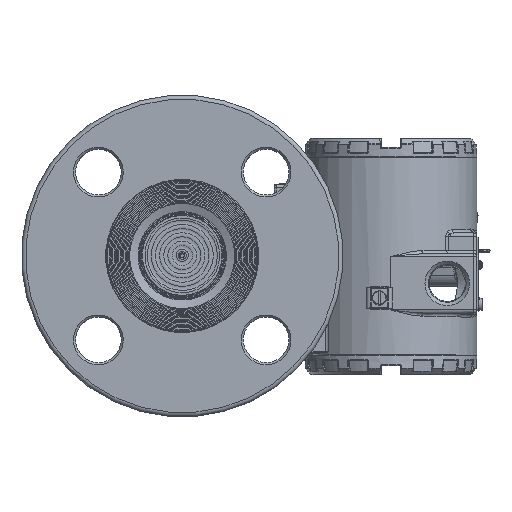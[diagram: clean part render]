
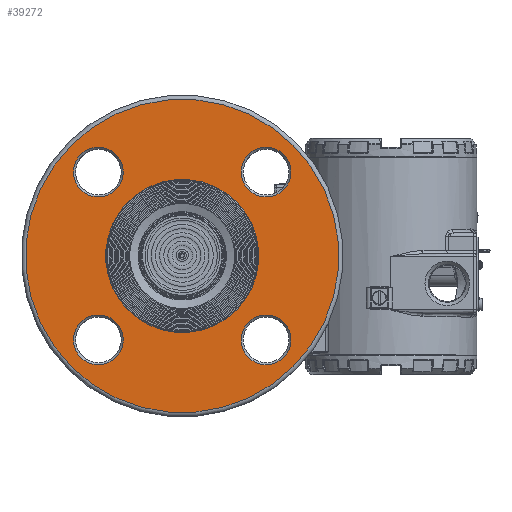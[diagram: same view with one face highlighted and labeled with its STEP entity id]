
A CAD part, top view. The second image highlights one B-rep face of the part: STEP entity #39272.
In plain terms, the highlighted planar face has unit normal (0, 0, 1).
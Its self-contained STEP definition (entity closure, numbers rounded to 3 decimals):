
#769=FACE_BOUND('',#6697,.T.);
#770=FACE_BOUND('',#6698,.T.);
#771=FACE_BOUND('',#6699,.T.);
#772=FACE_BOUND('',#6700,.T.);
#773=FACE_BOUND('',#6701,.T.);
#2786=PLANE('',#43694);
#4023=FACE_OUTER_BOUND('',#6696,.T.);
#6696=EDGE_LOOP('',(#30092));
#6697=EDGE_LOOP('',(#30093));
#6698=EDGE_LOOP('',(#30094));
#6699=EDGE_LOOP('',(#30095));
#6700=EDGE_LOOP('',(#30096));
#6701=EDGE_LOOP('',(#30097,#30098));
#12595=CIRCLE('',#43689,36.9);
#12599=CIRCLE('',#43693,36.9);
#12600=CIRCLE('',#43695,75.5);
#12601=CIRCLE('',#43696,12.);
#12602=CIRCLE('',#43697,12.);
#12603=CIRCLE('',#43698,12.);
#12604=CIRCLE('',#43699,12.);
#17157=VERTEX_POINT('',#70116);
#17158=VERTEX_POINT('',#70117);
#17161=VERTEX_POINT('',#70126);
#17162=VERTEX_POINT('',#70128);
#17163=VERTEX_POINT('',#70130);
#17164=VERTEX_POINT('',#70132);
#17165=VERTEX_POINT('',#70134);
#21709=EDGE_CURVE('',#17157,#17158,#12595,.T.);
#21713=EDGE_CURVE('',#17158,#17157,#12599,.T.);
#21714=EDGE_CURVE('',#17161,#17161,#12600,.T.);
#21715=EDGE_CURVE('',#17162,#17162,#12601,.T.);
#21716=EDGE_CURVE('',#17163,#17163,#12602,.T.);
#21717=EDGE_CURVE('',#17164,#17164,#12603,.T.);
#21718=EDGE_CURVE('',#17165,#17165,#12604,.T.);
#30092=ORIENTED_EDGE('',*,*,#21714,.F.);
#30093=ORIENTED_EDGE('',*,*,#21715,.F.);
#30094=ORIENTED_EDGE('',*,*,#21716,.F.);
#30095=ORIENTED_EDGE('',*,*,#21717,.F.);
#30096=ORIENTED_EDGE('',*,*,#21718,.F.);
#30097=ORIENTED_EDGE('',*,*,#21709,.F.);
#30098=ORIENTED_EDGE('',*,*,#21713,.F.);
#39272=ADVANCED_FACE('',(#4023,#769,#770,#771,#772,#773),#2786,.T.);
#43689=AXIS2_PLACEMENT_3D('',#70118,#51806,#51807);
#43693=AXIS2_PLACEMENT_3D('',#70124,#51814,#51815);
#43694=AXIS2_PLACEMENT_3D('',#70125,#51816,#51817);
#43695=AXIS2_PLACEMENT_3D('',#70127,#51818,#51819);
#43696=AXIS2_PLACEMENT_3D('',#70129,#51820,#51821);
#43697=AXIS2_PLACEMENT_3D('',#70131,#51822,#51823);
#43698=AXIS2_PLACEMENT_3D('',#70133,#51824,#51825);
#43699=AXIS2_PLACEMENT_3D('',#70135,#51826,#51827);
#51806=DIRECTION('center_axis',(0.,0.,1.));
#51807=DIRECTION('ref_axis',(-1.,0.,0.));
#51814=DIRECTION('center_axis',(0.,0.,1.));
#51815=DIRECTION('ref_axis',(-1.,0.,0.));
#51816=DIRECTION('center_axis',(0.,0.,1.));
#51817=DIRECTION('ref_axis',(1.,0.,0.));
#51818=DIRECTION('center_axis',(0.,0.,-1.));
#51819=DIRECTION('ref_axis',(-1.,0.,0.));
#51820=DIRECTION('center_axis',(0.,0.,1.));
#51821=DIRECTION('ref_axis',(-1.,0.,0.));
#51822=DIRECTION('center_axis',(0.,0.,1.));
#51823=DIRECTION('ref_axis',(0.,1.,0.));
#51824=DIRECTION('center_axis',(0.,0.,1.));
#51825=DIRECTION('ref_axis',(1.,0.,0.));
#51826=DIRECTION('center_axis',(0.,0.,1.));
#51827=DIRECTION('ref_axis',(0.,-1.,0.));
#70116=CARTESIAN_POINT('',(36.9,0.,22.3));
#70117=CARTESIAN_POINT('',(-36.9,0.,22.3));
#70118=CARTESIAN_POINT('Origin',(0.,0.,22.3));
#70124=CARTESIAN_POINT('Origin',(0.,0.,22.3));
#70125=CARTESIAN_POINT('Origin',(0.,0.,
22.3));
#70126=CARTESIAN_POINT('',(75.5,0.,22.3));
#70127=CARTESIAN_POINT('Origin',(0.,0.,22.3));
#70128=CARTESIAN_POINT('',(12.,57.15,22.3));
#70129=CARTESIAN_POINT('Origin',(0.,57.15,22.3));
#70130=CARTESIAN_POINT('',(57.15,-12.,22.3));
#70131=CARTESIAN_POINT('Origin',(57.15,0.,22.3));
#70132=CARTESIAN_POINT('',(-12.,-57.15,22.3));
#70133=CARTESIAN_POINT('Origin',(0.,-57.15,22.3));
#70134=CARTESIAN_POINT('',(-57.15,12.,22.3));
#70135=CARTESIAN_POINT('Origin',(-57.15,0.,22.3));
